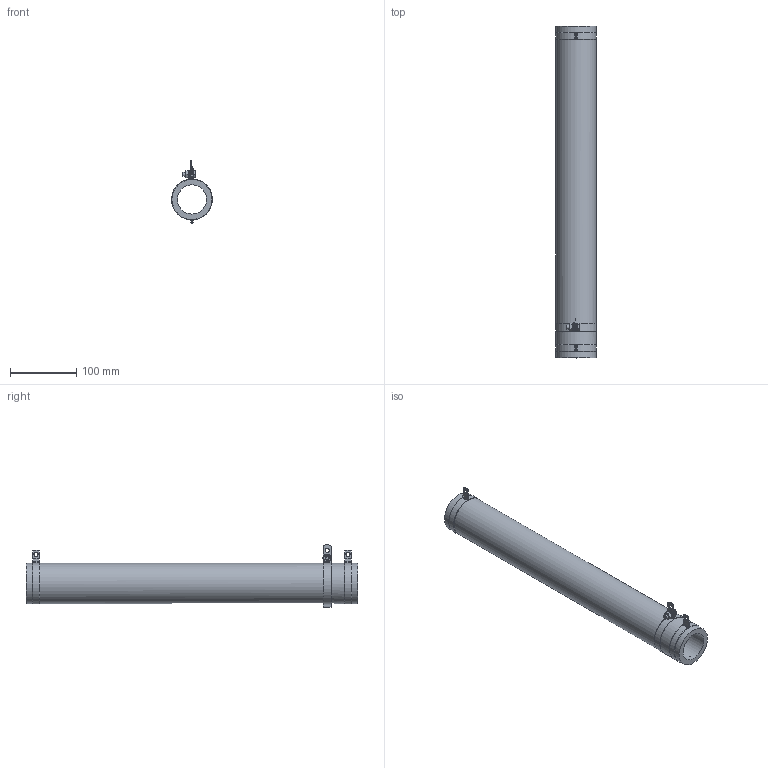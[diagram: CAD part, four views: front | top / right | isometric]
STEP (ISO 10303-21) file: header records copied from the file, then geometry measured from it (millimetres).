
FILE_DESCRIPTION(/* description */ (''),/* implementation_level */ '2;1');
FILE_NAME(/* name */ 'C:\_Vault\Dati\CATALOGO\RCA-RSA\R 25-1000\3D\RCAR1K0.stp',/* time_stamp */ '2014-03-18T16:33:16+01:00',/* author */ ('stefano'),/* organization */ (''),/* preprocessor_version */ 'ST-DEVELOPER v15.2',/* originating_system */ 'Autodesk Inventor 2014',/* authorisation */ '');
FILE_SCHEMA (('AUTOMOTIVE_DESIGN { 1 0 10303 214 3 1 1 }'));
Length unit declared in the file: millimetre
Products named in the file (1): RCAR1K0
Bounding box: 61.53 x 500 x 94.11 mm (x, y, z)
Volume: 681994.3 mm3; surface area: 171789.9 mm2
Topology: 1 solids, 9 shells, 1291 faces, 3081 edges, 2038 vertices
Faces by surface type: plane 959, cylinder 288, cone 20, torus 20, bspline 4
Full cylindrical faces by diameter (mm): 4.2 x1, 6 x2, 6.2 x3, 6.3 x2, 6.4 x1, 8.88 x1, 12 x1, 12.5 x1, 44 x1, 60.5 x3
Entity records: 39022 total; most frequent: CARTESIAN_POINT 6940, DIRECTION 6574, ORIENTED_EDGE 6106, EDGE_CURVE 3053, AXIS2_PLACEMENT_3D 2335, VERTEX_POINT 2029, LINE 1904, VECTOR 1904
